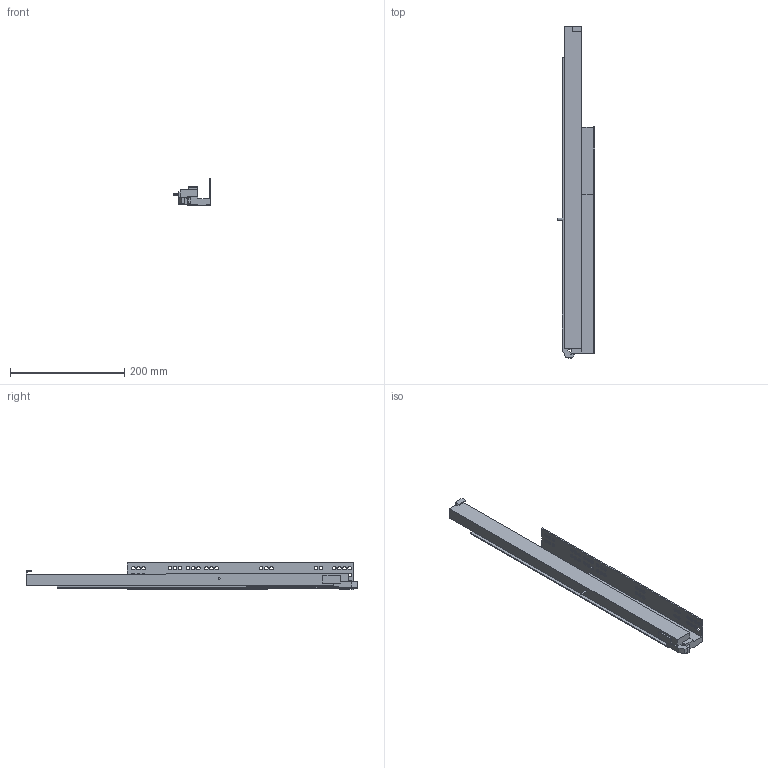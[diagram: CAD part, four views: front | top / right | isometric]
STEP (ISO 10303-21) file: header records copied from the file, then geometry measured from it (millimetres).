
FILE_DESCRIPTION (( 'STEP AP203' ), '1' );
FILE_NAME ('IMOS_Dynapro_Tipmatic_D51_NL_0_RE.STEP', '2013-03-22T12:01:31', ( 'Grass GmbH' ), ( 'Grass GmbH' ), 'SwSTEP 2.0', 'SolidWorks 2012', '' );
FILE_SCHEMA (( 'CONFIG_CONTROL_DESIGN' ));
Length unit declared in the file: millimetre
Products named in the file (1): IMOS_Dynapro_Tipmatic_D51_NL_0_RE
Bounding box: 65.92 x 581.55 x 48.48 mm (x, y, z)
Volume: 536565.7 mm3; surface area: 129616.9 mm2
Topology: 1 solids, 1 shells, 190 faces, 549 edges, 366 vertices
Faces by surface type: plane 99, cylinder 91
Entity records: 6536 total; most frequent: DIRECTION 1113, CARTESIAN_POINT 1106, ORIENTED_EDGE 1098, EDGE_CURVE 549, AXIS2_PLACEMENT_3D 373, LINE 367, VECTOR 367, VERTEX_POINT 366
